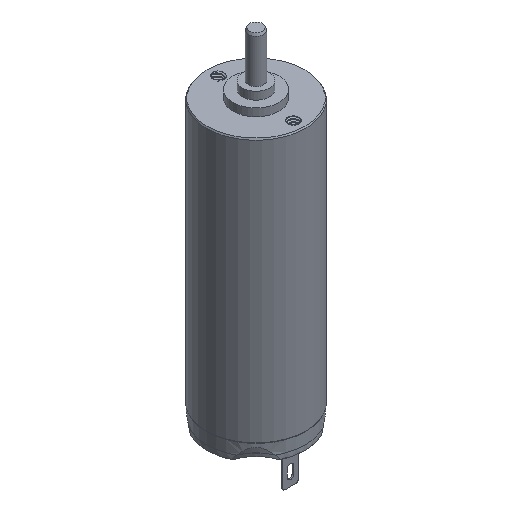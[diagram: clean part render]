
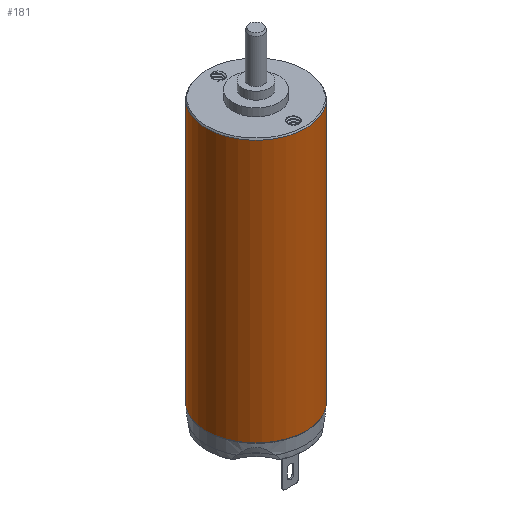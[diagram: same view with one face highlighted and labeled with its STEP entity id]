
A CAD part, isometric view. The second image highlights one B-rep face of the part: STEP entity #181.
In plain terms, the highlighted cylindrical face has radius 6.5 mm (diameter 13 mm), a full revolution.
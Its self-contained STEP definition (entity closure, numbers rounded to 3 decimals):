
#73=FACE_BOUND('',#403,.T.);
#74=FACE_BOUND('',#404,.T.);
#181=ADVANCED_FACE('',(#73,#74),#274,.T.);
#274=CYLINDRICAL_SURFACE('',#1743,6.5);
#403=EDGE_LOOP('',(#769));
#404=EDGE_LOOP('',(#770));
#605=CIRCLE('',#1741,6.5);
#606=CIRCLE('',#1742,6.5);
#769=ORIENTED_EDGE('',*,*,#1374,.T.);
#770=ORIENTED_EDGE('',*,*,#1375,.F.);
#1203=VERTEX_POINT('',#3484);
#1204=VERTEX_POINT('',#3486);
#1374=EDGE_CURVE('',#1203,#1203,#605,.T.);
#1375=EDGE_CURVE('',#1204,#1204,#606,.T.);
#1741=AXIS2_PLACEMENT_3D('',#3483,#2031,#2032);
#1742=AXIS2_PLACEMENT_3D('',#3485,#2033,#2034);
#1743=AXIS2_PLACEMENT_3D('',#3487,#2035,#2036);
#2031=DIRECTION('',(0.,0.,-1.));
#2032=DIRECTION('',(1.,0.,0.));
#2033=DIRECTION('',(0.,0.,-1.));
#2034=DIRECTION('',(-1.,0.,0.));
#2035=DIRECTION('',(0.,0.,-1.));
#2036=DIRECTION('',(-1.,0.,0.));
#3483=CARTESIAN_POINT('',(0.,0.,-0.173));
#3484=CARTESIAN_POINT('',(6.5,0.,-0.173));
#3485=CARTESIAN_POINT('',(0.,0.,-34.413));
#3486=CARTESIAN_POINT('',(-6.5,0.,-34.413));
#3487=CARTESIAN_POINT('',(0.,0.,0.));
